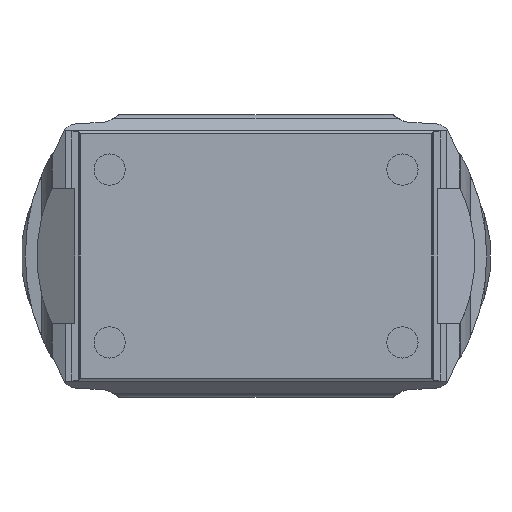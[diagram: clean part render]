
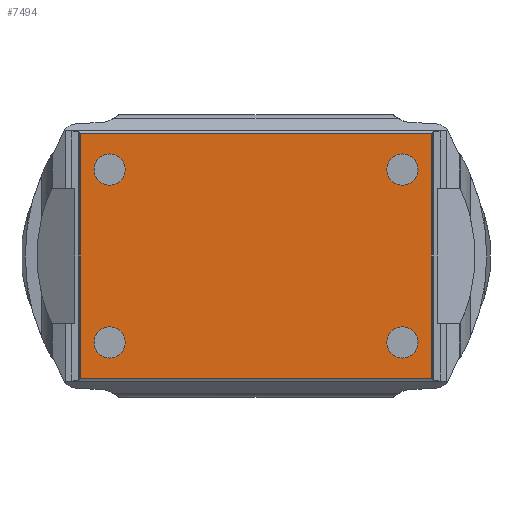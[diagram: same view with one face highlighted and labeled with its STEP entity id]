
A CAD part, front view. The second image highlights one B-rep face of the part: STEP entity #7494.
In plain terms, the highlighted planar face has unit normal (0, -1, 0).
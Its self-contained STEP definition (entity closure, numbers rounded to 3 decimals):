
#55=CIRCLE('',#7887,13.);
#57=CIRCLE('',#7891,13.);
#59=CIRCLE('',#7895,13.);
#61=CIRCLE('',#7899,13.);
#595=LINE('',#18496,#902);
#611=LINE('',#18531,#918);
#685=LINE('',#19211,#992);
#686=LINE('',#19213,#993);
#902=VECTOR('',#8819,1000.);
#918=VECTOR('',#8843,1000.);
#992=VECTOR('',#9113,1000.);
#993=VECTOR('',#9116,1000.);
#1178=PLANE('',#8007);
#3053=ORIENTED_EDGE('',*,*,#4369,.T.);
#3054=ORIENTED_EDGE('',*,*,#4537,.F.);
#3055=ORIENTED_EDGE('',*,*,#4351,.F.);
#3056=ORIENTED_EDGE('',*,*,#4536,.T.);
#3057=ORIENTED_EDGE('',*,*,#4335,.T.);
#3058=ORIENTED_EDGE('',*,*,#4329,.F.);
#3059=ORIENTED_EDGE('',*,*,#4333,.F.);
#3060=ORIENTED_EDGE('',*,*,#4331,.F.);
#4329=EDGE_CURVE('',#5247,#5247,#55,.T.);
#4331=EDGE_CURVE('',#5249,#5249,#57,.T.);
#4333=EDGE_CURVE('',#5251,#5251,#59,.T.);
#4335=EDGE_CURVE('',#5253,#5253,#61,.T.);
#4351=EDGE_CURVE('',#5266,#5268,#595,.T.);
#4369=EDGE_CURVE('',#5283,#5282,#611,.T.);
#4536=EDGE_CURVE('',#5266,#5283,#685,.T.);
#4537=EDGE_CURVE('',#5268,#5282,#686,.T.);
#5247=VERTEX_POINT('',#18444);
#5249=VERTEX_POINT('',#18450);
#5251=VERTEX_POINT('',#18456);
#5253=VERTEX_POINT('',#18462);
#5266=VERTEX_POINT('',#18494);
#5268=VERTEX_POINT('',#18497);
#5282=VERTEX_POINT('',#18530);
#5283=VERTEX_POINT('',#18532);
#6594=EDGE_LOOP('',(#3053,#3054,#3055,#3056));
#6595=EDGE_LOOP('',(#3057));
#6596=EDGE_LOOP('',(#3058));
#6597=EDGE_LOOP('',(#3059));
#6598=EDGE_LOOP('',(#3060));
#7051=FACE_BOUND('',#6594,.T.);
#7052=FACE_BOUND('',#6595,.T.);
#7053=FACE_BOUND('',#6596,.T.);
#7054=FACE_BOUND('',#6597,.T.);
#7055=FACE_BOUND('',#6598,.T.);
#7494=ADVANCED_FACE('',(#7051,#7052,#7053,#7054,#7055),#1178,.T.);
#7887=AXIS2_PLACEMENT_3D('',#18443,#8769,#8770);
#7891=AXIS2_PLACEMENT_3D('',#18449,#8777,#8778);
#7895=AXIS2_PLACEMENT_3D('',#18455,#8785,#8786);
#7899=AXIS2_PLACEMENT_3D('',#18461,#8793,#8794);
#8007=AXIS2_PLACEMENT_3D('',#19212,#9114,#9115);
#8769=DIRECTION('',(0.,-1.,0.));
#8770=DIRECTION('',(1.,0.,0.));
#8777=DIRECTION('',(0.,-1.,0.));
#8778=DIRECTION('',(1.,0.,0.));
#8785=DIRECTION('',(0.,-1.,0.));
#8786=DIRECTION('',(1.,0.,0.));
#8793=DIRECTION('',(0.,1.,0.));
#8794=DIRECTION('',(1.,0.,0.));
#8819=DIRECTION('',(1.,0.,0.));
#8843=DIRECTION('',(1.,0.,0.));
#9113=DIRECTION('',(0.,0.,-1.));
#9114=DIRECTION('',(0.,-1.,0.));
#9115=DIRECTION('',(1.,0.,0.));
#9116=DIRECTION('',(0.,0.,-1.));
#18443=CARTESIAN_POINT('',(122.,-120.,72.));
#18444=CARTESIAN_POINT('',(135.,-120.,72.));
#18449=CARTESIAN_POINT('',(122.,-120.,-72.));
#18450=CARTESIAN_POINT('',(135.,-120.,-72.));
#18455=CARTESIAN_POINT('',(-122.,-120.,72.));
#18456=CARTESIAN_POINT('',(-109.,-120.,72.));
#18461=CARTESIAN_POINT('',(-122.,-120.,-72.));
#18462=CARTESIAN_POINT('',(-109.,-120.,-72.));
#18494=CARTESIAN_POINT('',(-146.576,-120.,102.076));
#18496=CARTESIAN_POINT('',(-498.612,-120.,102.076));
#18497=CARTESIAN_POINT('',(146.576,-120.,102.076));
#18530=CARTESIAN_POINT('',(146.576,-120.,-102.076));
#18531=CARTESIAN_POINT('',(-479.885,-120.,-102.076));
#18532=CARTESIAN_POINT('',(-146.576,-120.,-102.076));
#19211=CARTESIAN_POINT('',(-146.576,-120.,516.624));
#19212=CARTESIAN_POINT('',(146.576,-120.,516.624));
#19213=CARTESIAN_POINT('',(146.576,-120.,516.624));
